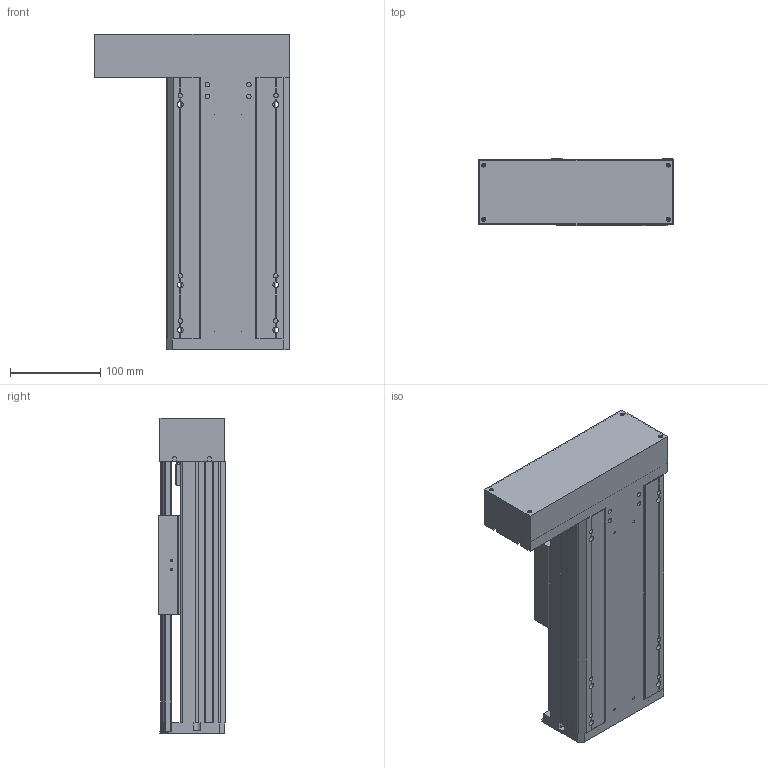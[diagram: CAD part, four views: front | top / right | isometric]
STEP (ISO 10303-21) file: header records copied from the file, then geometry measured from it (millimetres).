
FILE_DESCRIPTION(/* description */ (''),/* implementation_level */ '2;1');
FILE_NAME(/* name */ 'TKA136-FL-100_asm1.stp',/* time_stamp */ '2016-05-07T11:03:09+08:00',/* author */ (''),/* organization */ (''),/* preprocessor_version */ 'ST-DEVELOPER v15',/* originating_system */ 'SIEMENS PLM Software NX 8.5',/* authorisation */ '');
FILE_SCHEMA (('AUTOMOTIVE_DESIGN { 1 0 10303 214 3 1 1 1 }'));
Length unit declared in the file: millimetre
Products named in the file (3): 100-02; 100-01; TKA136-FL-100_asm1
Assembly tree (2 placements, depth 2):
  TKA136-FL-100_asm1
    100-01
    100-02
Bounding box: 216 x 75 x 350 mm (x, y, z)
Volume: 1341991.9 mm3; surface area: 532729.9 mm2
Topology: 2 solids, 12 shells, 854 faces, 2356 edges, 1537 vertices
Faces by surface type: plane 417, cylinder 386, cone 51
Full cylindrical faces by diameter (mm): 2.5 x14, 3 x2, 3.3 x13, 4 x4, 4.2 x6, 4.5 x24, 5 x14, 5.5 x26, 6.6 x10, 8 x20, 10 x9, 10.5 x6, 11 x4, 11.6 x1, 12 x9, 15 x3, 16 x5, 17 x1, 24 x5, 26 x1, 28 x1, 46 x1, 50 x1
Entity records: 27984 total; most frequent: CARTESIAN_POINT 7158, DIRECTION 4338, ORIENTED_EDGE 4002, EDGE_CURVE 2001, AXIS2_PLACEMENT_3D 1635, VERTEX_POINT 1432, EDGE_LOOP 1268, LINE 1068
